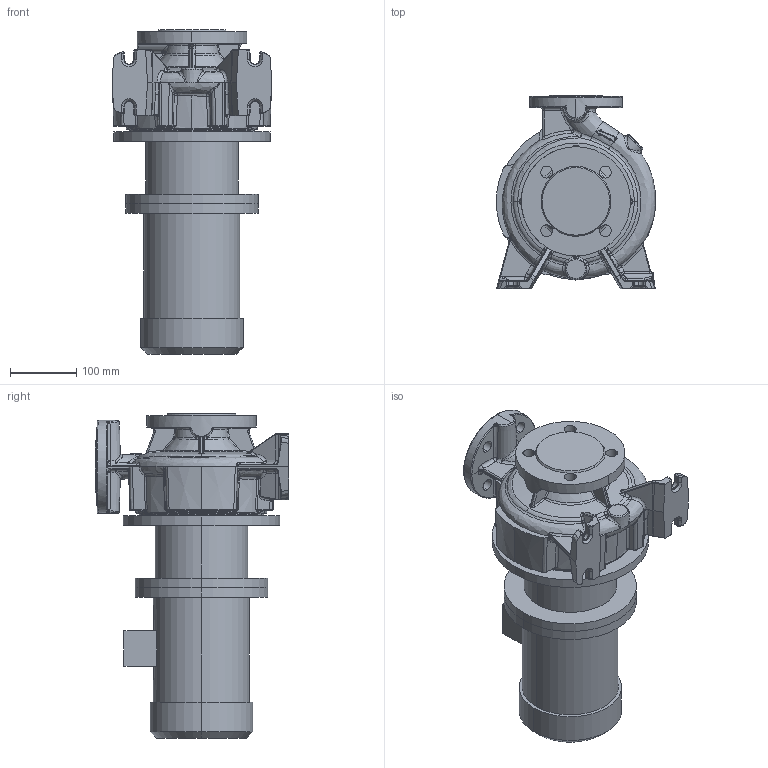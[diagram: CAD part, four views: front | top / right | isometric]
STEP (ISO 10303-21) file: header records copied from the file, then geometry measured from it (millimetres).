
FILE_DESCRIPTION (( 'STEP AP214' ), '1' );
FILE_NAME ('KRM 50-32-160.1-4-0,55.STEP', '2026-04-23T07:56:25', ( '' ), ( '' ), 'SwSTEP 2.0', 'SolidWorks 2016', '' );
FILE_SCHEMA (( 'AUTOMOTIVE_DESIGN' ));
Length unit declared in the file: millimetre
Products named in the file (1): KRM  50-32-160.1-4-0,55
Bounding box: 240.71 x 292.5 x 489.8 mm (x, y, z)
Volume: 11700203 mm3; surface area: 743747 mm2
Topology: 4 solids, 4 shells, 1060 faces, 2496 edges, 1431 vertices
Faces by surface type: bspline 527, cylinder 228, plane 151, torus 68, cone 50, sphere 36
Entity records: 103964 total; most frequent: CARTESIAN_POINT 72275, ORIENTED_EDGE 4926, DIRECTION 3236, EDGE_CURVE 2463, VERTEX_POINT 1431, AXIS2_PLACEMENT_3D 1395, EDGE_LOOP 1096, UNCERTAINTY_MEASURE_WITH_UNIT 1066
